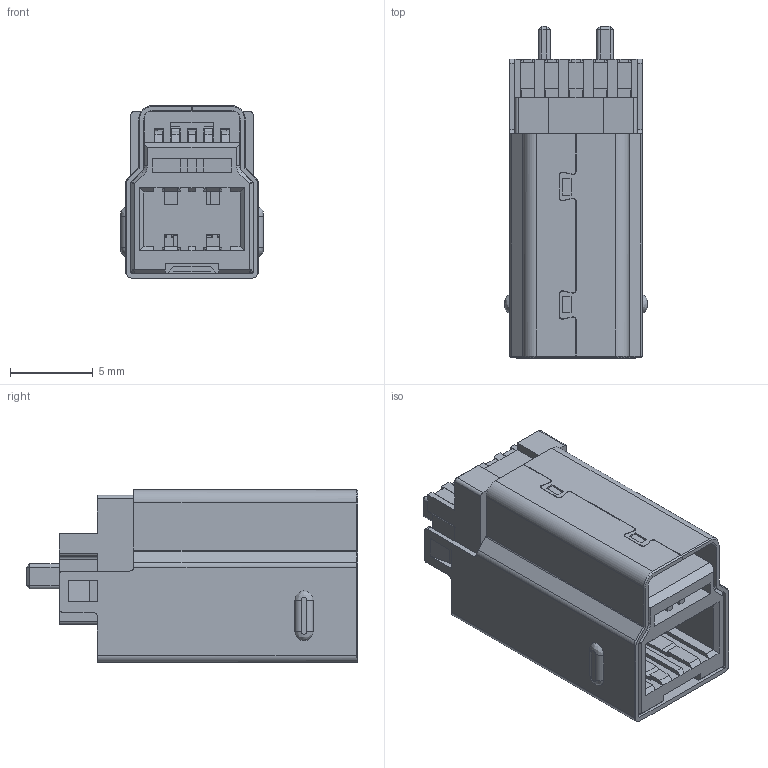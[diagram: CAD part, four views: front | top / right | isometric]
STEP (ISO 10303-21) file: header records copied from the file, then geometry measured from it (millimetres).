
FILE_DESCRIPTION (( 'STEP AP203' ), '1' );
FILE_NAME ('GT-3B90050-000G000.STEP', '2025-05-24T07:21:46', ( '' ), ( '' ), 'SwSTEP 2.0', 'SolidWorks 2023', '' );
FILE_SCHEMA (( 'CONFIG_CONTROL_DESIGN' ));
Length unit declared in the file: millimetre
Products named in the file (1): GT-3B90050-000G000
Bounding box: 8.6 x 20 x 10.4 mm (x, y, z)
Volume: 889.7 mm3; surface area: 2456.8 mm2
Topology: 1 solids, 17 shells, 1543 faces, 4495 edges, 2885 vertices
Faces by surface type: plane 1188, cylinder 249, bspline 78, cone 20, torus 8
Entity records: 54037 total; most frequent: CARTESIAN_POINT 13255, ORIENTED_EDGE 8966, DIRECTION 7780, EDGE_CURVE 4483, VECTOR 3784, LINE 3784, VERTEX_POINT 2885, AXIS2_PLACEMENT_3D 1998
